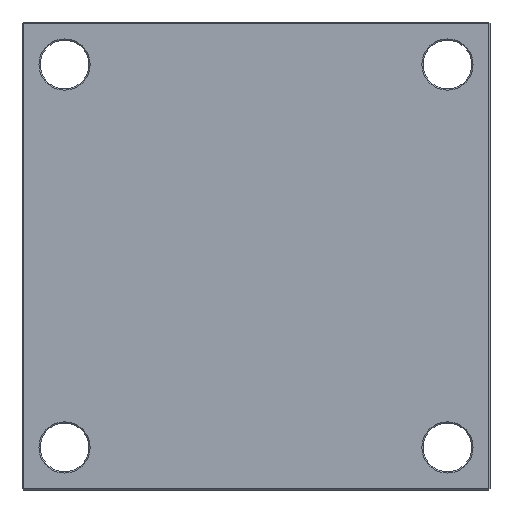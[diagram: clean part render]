
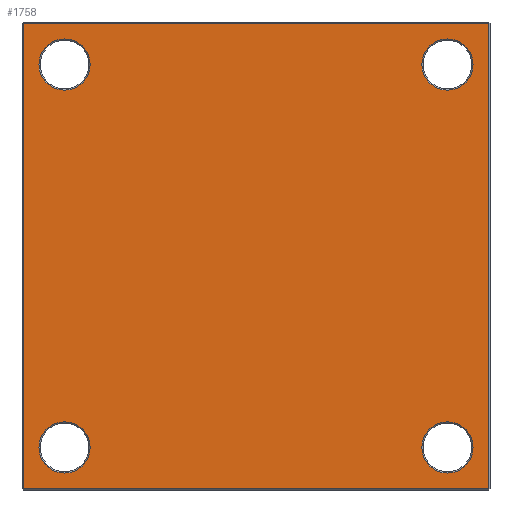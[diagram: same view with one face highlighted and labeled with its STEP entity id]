
A CAD part, front view. The second image highlights one B-rep face of the part: STEP entity #1758.
In plain terms, the highlighted planar face has unit normal (0, -1, 0).
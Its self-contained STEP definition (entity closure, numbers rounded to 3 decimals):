
#87 = DIRECTION ( 'NONE',  ( 0., 1., 0. ) ) ;
#96 = VERTEX_POINT ( 'NONE', #2075 ) ;
#97 = CARTESIAN_POINT ( 'NONE',  ( -162., 0., 162. ) ) ;
#99 = CIRCLE ( 'NONE', #1650, 21.65 ) ;
#107 = DIRECTION ( 'NONE',  ( 0., 0., 1. ) ) ;
#119 = VECTOR ( 'NONE', #1621, 1000. ) ;
#120 = AXIS2_PLACEMENT_3D ( 'NONE', #584, #941, #542 ) ;
#140 = ORIENTED_EDGE ( 'NONE', *, *, #1240, .T. ) ;
#175 = LINE ( 'NONE', #1238, #1297 ) ;
#186 = ORIENTED_EDGE ( 'NONE', *, *, #1258, .T. ) ;
#209 = CARTESIAN_POINT ( 'NONE',  ( 197., 0., -197. ) ) ;
#234 = ORIENTED_EDGE ( 'NONE', *, *, #890, .T. ) ;
#433 = ORIENTED_EDGE ( 'NONE', *, *, #862, .T. ) ;
#449 = VECTOR ( 'NONE', #1816, 1000. ) ;
#461 = EDGE_LOOP ( 'NONE', ( #1675, #1908 ) ) ;
#470 = ORIENTED_EDGE ( 'NONE', *, *, #1242, .T. ) ;
#485 = CIRCLE ( 'NONE', #1642, 21.65 ) ;
#492 = CIRCLE ( 'NONE', #1911, 21.65 ) ;
#542 = DIRECTION ( 'NONE',  ( 0., 0., 1. ) ) ;
#547 = CIRCLE ( 'NONE', #1785, 21.65 ) ;
#576 = CARTESIAN_POINT ( 'NONE',  ( -162., 0., -140.35 ) ) ;
#578 = ORIENTED_EDGE ( 'NONE', *, *, #920, .T. ) ;
#584 = CARTESIAN_POINT ( 'NONE',  ( 0., 0., 0. ) ) ;
#591 = CIRCLE ( 'NONE', #1800, 21.65 ) ;
#620 = VERTEX_POINT ( 'NONE', #576 ) ;
#630 = FACE_OUTER_BOUND ( 'NONE', #1592, .T. ) ;
#710 = DIRECTION ( 'NONE',  ( 0., 1., 0. ) ) ;
#716 = DIRECTION ( 'NONE',  ( 0., 0., 1. ) ) ;
#719 = VERTEX_POINT ( 'NONE', #811 ) ;
#726 = CARTESIAN_POINT ( 'NONE',  ( 197., 0., 0. ) ) ;
#727 = CARTESIAN_POINT ( 'NONE',  ( -162., 0., -162. ) ) ;
#729 = DIRECTION ( 'NONE',  ( 0., 1., 0. ) ) ;
#734 = DIRECTION ( 'NONE',  ( 0., 0., 1. ) ) ;
#737 = CARTESIAN_POINT ( 'NONE',  ( 162., 0., -162. ) ) ;
#745 = DIRECTION ( 'NONE',  ( 0., 1., 0. ) ) ;
#758 = DIRECTION ( 'NONE',  ( 0., 0., 1. ) ) ;
#788 = VERTEX_POINT ( 'NONE', #886 ) ;
#811 = CARTESIAN_POINT ( 'NONE',  ( -162., 0., 140.35 ) ) ;
#824 = CARTESIAN_POINT ( 'NONE',  ( 162., 0., 140.35 ) ) ;
#828 = VERTEX_POINT ( 'NONE', #1000 ) ;
#862 = EDGE_CURVE ( 'NONE', #1376, #96, #485, .T. ) ;
#873 = VECTOR ( 'NONE', #1385, 1000. ) ;
#886 = CARTESIAN_POINT ( 'NONE',  ( -162., 0., -183.65 ) ) ;
#890 = EDGE_CURVE ( 'NONE', #1473, #828, #99, .T. ) ;
#920 = EDGE_CURVE ( 'NONE', #719, #1424, #1700, .T. ) ;
#927 = CIRCLE ( 'NONE', #1806, 21.65 ) ;
#941 = DIRECTION ( 'NONE',  ( 0., 1., 0. ) ) ;
#946 = CARTESIAN_POINT ( 'NONE',  ( -197., 0., -197. ) ) ;
#984 = PLANE ( 'NONE',  #120 ) ;
#1000 = CARTESIAN_POINT ( 'NONE',  ( 162., 0., 183.65 ) ) ;
#1038 = FACE_BOUND ( 'NONE', #2167, .T. ) ;
#1042 = VERTEX_POINT ( 'NONE', #946 ) ;
#1080 = CARTESIAN_POINT ( 'NONE',  ( 197., 0., 197. ) ) ;
#1087 = CARTESIAN_POINT ( 'NONE',  ( 162., 0., -183.65 ) ) ;
#1097 = FACE_BOUND ( 'NONE', #1187, .T. ) ;
#1186 = ORIENTED_EDGE ( 'NONE', *, *, #1265, .T. ) ;
#1187 = EDGE_LOOP ( 'NONE', ( #578, #1916 ) ) ;
#1236 = EDGE_CURVE ( 'NONE', #620, #788, #547, .T. ) ;
#1238 = CARTESIAN_POINT ( 'NONE',  ( -197., 0., 0. ) ) ;
#1240 = EDGE_CURVE ( 'NONE', #96, #1376, #591, .T. ) ;
#1242 = EDGE_CURVE ( 'NONE', #828, #1473, #1975, .T. ) ;
#1252 = EDGE_CURVE ( 'NONE', #1424, #719, #927, .T. ) ;
#1255 = EDGE_CURVE ( 'NONE', #1860, #1795, #1356, .T. ) ;
#1257 = CARTESIAN_POINT ( 'NONE',  ( 162., 0., -162. ) ) ;
#1258 = EDGE_CURVE ( 'NONE', #1795, #2090, #1923, .T. ) ;
#1260 = EDGE_CURVE ( 'NONE', #2090, #1042, #175, .T. ) ;
#1265 = EDGE_CURVE ( 'NONE', #1042, #1860, #1854, .T. ) ;
#1272 = DIRECTION ( 'NONE',  ( 0., 1., 0. ) ) ;
#1289 = DIRECTION ( 'NONE',  ( 0., 0., 1. ) ) ;
#1297 = VECTOR ( 'NONE', #1752, 1000. ) ;
#1314 = CARTESIAN_POINT ( 'NONE',  ( -162., 0., -162. ) ) ;
#1324 = CARTESIAN_POINT ( 'NONE',  ( -197., 0., 197. ) ) ;
#1356 = LINE ( 'NONE', #726, #873 ) ;
#1376 = VERTEX_POINT ( 'NONE', #1087 ) ;
#1385 = DIRECTION ( 'NONE',  ( 0., 0., 1. ) ) ;
#1415 = DIRECTION ( 'NONE',  ( 0., 1., 0. ) ) ;
#1424 = VERTEX_POINT ( 'NONE', #2169 ) ;
#1455 = EDGE_CURVE ( 'NONE', #788, #620, #492, .T. ) ;
#1460 = CARTESIAN_POINT ( 'NONE',  ( 162., 0., 162. ) ) ;
#1473 = VERTEX_POINT ( 'NONE', #824 ) ;
#1494 = DIRECTION ( 'NONE',  ( 0., 0., 1. ) ) ;
#1514 = DIRECTION ( 'NONE',  ( 0., 1., 0. ) ) ;
#1537 = DIRECTION ( 'NONE',  ( 0., 0., 1. ) ) ;
#1545 = FACE_BOUND ( 'NONE', #461, .T. ) ;
#1557 = CARTESIAN_POINT ( 'NONE',  ( 0., 0., 197. ) ) ;
#1564 = ORIENTED_EDGE ( 'NONE', *, *, #1260, .T. ) ;
#1566 = CARTESIAN_POINT ( 'NONE',  ( -162., 0., 162. ) ) ;
#1574 = DIRECTION ( 'NONE',  ( 0., 1., 0. ) ) ;
#1592 = EDGE_LOOP ( 'NONE', ( #2107, #186, #1564, #1186 ) ) ;
#1597 = DIRECTION ( 'NONE',  ( 0., 0., 1. ) ) ;
#1621 = DIRECTION ( 'NONE',  ( -1., 0., 0. ) ) ;
#1642 = AXIS2_PLACEMENT_3D ( 'NONE', #1257, #1272, #1289 ) ;
#1650 = AXIS2_PLACEMENT_3D ( 'NONE', #1460, #1415, #1537 ) ;
#1659 = AXIS2_PLACEMENT_3D ( 'NONE', #97, #87, #107 ) ;
#1675 = ORIENTED_EDGE ( 'NONE', *, *, #1455, .T. ) ;
#1700 = CIRCLE ( 'NONE', #1659, 21.65 ) ;
#1752 = DIRECTION ( 'NONE',  ( 0., 0., -1. ) ) ;
#1758 = ADVANCED_FACE ( 'NONE', ( #1545, #2076, #1038, #1097, #630 ), #984, .F. ) ;
#1785 = AXIS2_PLACEMENT_3D ( 'NONE', #1314, #710, #716 ) ;
#1795 = VERTEX_POINT ( 'NONE', #1080 ) ;
#1800 = AXIS2_PLACEMENT_3D ( 'NONE', #737, #745, #758 ) ;
#1802 = AXIS2_PLACEMENT_3D ( 'NONE', #2178, #1514, #1494 ) ;
#1805 = CARTESIAN_POINT ( 'NONE',  ( 0., 0., -197. ) ) ;
#1806 = AXIS2_PLACEMENT_3D ( 'NONE', #1566, #1574, #1597 ) ;
#1816 = DIRECTION ( 'NONE',  ( 1., 0., 0. ) ) ;
#1854 = LINE ( 'NONE', #1805, #449 ) ;
#1859 = EDGE_LOOP ( 'NONE', ( #433, #140 ) ) ;
#1860 = VERTEX_POINT ( 'NONE', #209 ) ;
#1908 = ORIENTED_EDGE ( 'NONE', *, *, #1236, .T. ) ;
#1911 = AXIS2_PLACEMENT_3D ( 'NONE', #727, #729, #734 ) ;
#1916 = ORIENTED_EDGE ( 'NONE', *, *, #1252, .T. ) ;
#1923 = LINE ( 'NONE', #1557, #119 ) ;
#1975 = CIRCLE ( 'NONE', #1802, 21.65 ) ;
#2075 = CARTESIAN_POINT ( 'NONE',  ( 162., 0., -140.35 ) ) ;
#2076 = FACE_BOUND ( 'NONE', #1859, .T. ) ;
#2090 = VERTEX_POINT ( 'NONE', #1324 ) ;
#2107 = ORIENTED_EDGE ( 'NONE', *, *, #1255, .T. ) ;
#2167 = EDGE_LOOP ( 'NONE', ( #234, #470 ) ) ;
#2169 = CARTESIAN_POINT ( 'NONE',  ( -162., 0., 183.65 ) ) ;
#2178 = CARTESIAN_POINT ( 'NONE',  ( 162., 0., 162. ) ) ;
